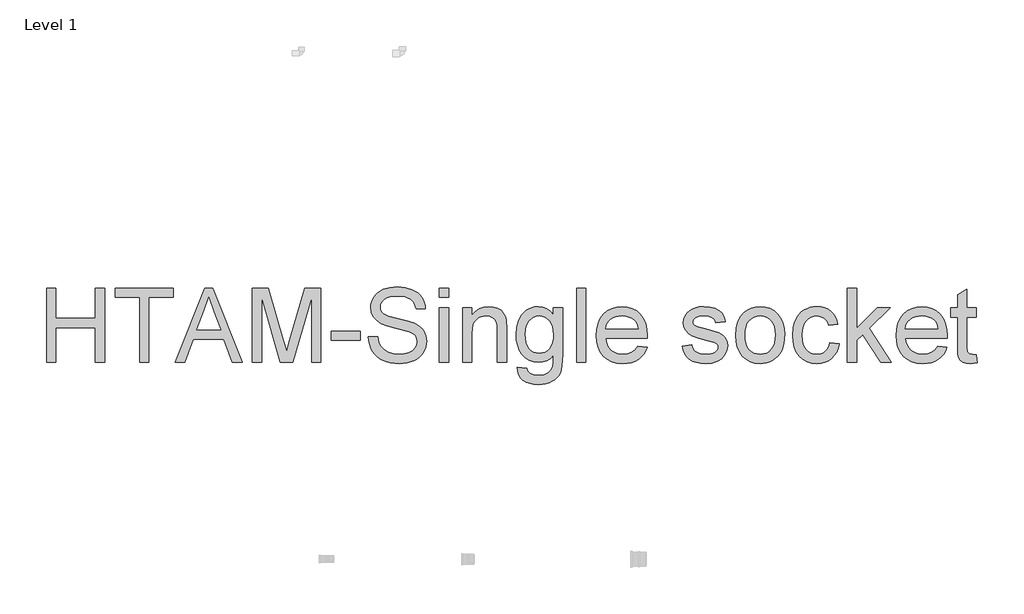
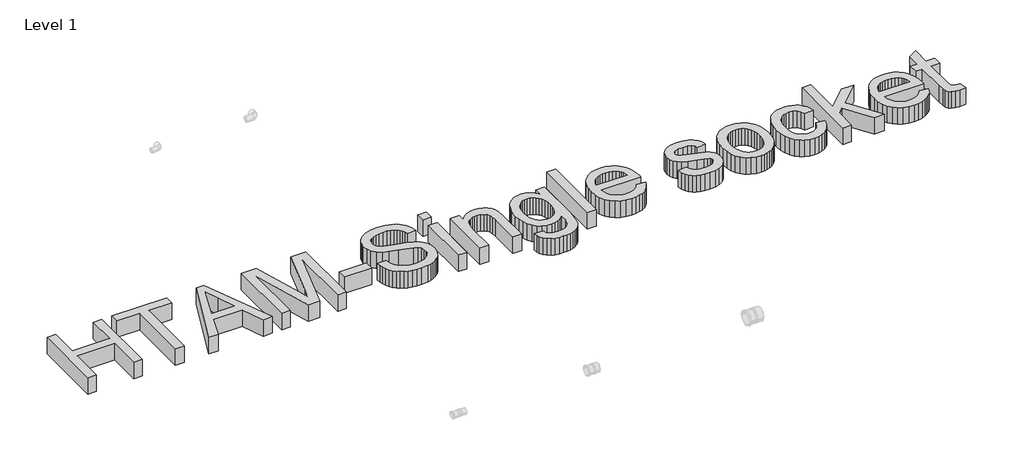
# One storey, part 22 of 29: 1 proxy.
"""IFC4 building model written with IfcOpenShell, lengths in millimetres."""

import ifcopenshell
import ifcopenshell.guid

model = None  # the IFC model being written
_history = None  # IfcOwnerHistory: only IFC2X3 demands one
_inside = {}  # id of a spatial element -> (the spatial element, [elements in it])
_under = {}  # id of a project, library or spatial element -> (it, [spatial elements below it])
_declared = {}  # id of a project -> (the project, [libraries it declares])
_typed = {}  # id of a type object -> (the type object, [elements of that type])
_made_of = {}  # id of a material, layer set ... -> (it, [elements and type objects made of it])


def new_model(schema):
    """Start an empty IFC model of exactly this schema.

    Asked for "IFC4X3", IfcOpenShell would pick the latest addendum, in which some entities
    have other attributes; the version numbers below select the first issue.
    IFC2X3 requires an IfcOwnerHistory on every rooted entity: one is made here for all.
    """
    global model, _history
    if schema == "IFC4X3":
        model = ifcopenshell.file(schema_version=(4, 3, 0, 0))
    else:
        model = ifcopenshell.file(schema=schema)
    _inside.clear()
    _under.clear()
    _declared.clear()
    _typed.clear()
    _made_of.clear()
    _history = None
    if model.schema == "IFC2X3":
        org = make("IfcOrganization", Name="unknown")
        user = make(
            "IfcPersonAndOrganization",
            ThePerson=make("IfcPerson", FamilyName="unknown"),
            TheOrganization=org,
        )
        app = make(
            "IfcApplication",
            ApplicationDeveloper=org,
            Version="unknown",
            ApplicationFullName="unknown",
            ApplicationIdentifier="unknown",
        )
        _history = make(
            "IfcOwnerHistory",
            OwningUser=user,
            OwningApplication=app,
            ChangeAction="ADDED",
            CreationDate=0,
        )
    return model


def make(cls, **values):
    """One entity of the class cls with the attributes given. An attribute that is None is left unset."""
    return model.create_entity(
        cls, **{name: value for name, value in values.items() if value is not None}
    )


def rooted(cls, **values):
    """An entity with a GlobalId (a new one), such as an element, a storey or a relation."""
    return make(cls, GlobalId=ifcopenshell.guid.new(), OwnerHistory=_history, **values)


def si_unit(unit_type, name, prefix=None):
    """IfcSIUnit, for example si_unit("LENGTHUNIT", "METRE", prefix="MILLI")."""
    return make("IfcSIUnit", UnitType=unit_type, Prefix=prefix, Name=name)


def assignment(units):
    """IfcUnitAssignment: the units of a project."""
    return None if units is None else make("IfcUnitAssignment", Units=units)


def point(xyz):
    """IfcCartesianPoint."""
    return None if xyz is None else make("IfcCartesianPoint", Coordinates=xyz)


def direction(xyz):
    """IfcDirection."""
    return None if xyz is None else make("IfcDirection", DirectionRatios=xyz)


def frame(location, z_axis=None, x_axis=None):
    """IfcAxis2Placement3D, a coordinate frame: its origin and axes. An axis left out is left unset."""
    return make(
        "IfcAxis2Placement3D",
        Location=point(location),
        Axis=direction(z_axis),
        RefDirection=direction(x_axis),
    )


def origin():
    """The frame at (0, 0, 0) with its axes left unset."""
    return frame((0.0, 0.0, 0.0))


def origin_with_axes():
    """The frame at (0, 0, 0) with the z axis (0, 0, 1) and the x axis (1, 0, 0) written out."""
    return frame((0.0, 0.0, 0.0), z_axis=(0.0, 0.0, 1.0), x_axis=(1.0, 0.0, 0.0))


def place(relative_to, where):
    """IfcLocalPlacement: puts the frame where relative to a parent placement (None: the world)."""
    return make(
        "IfcLocalPlacement", PlacementRelTo=relative_to, RelativePlacement=where
    )


def context(
    kind, dimensions, precision=None, world=None, true_north=None, identifier=None
):
    """IfcGeometricRepresentationContext, for example the 3D "Model" context."""
    return make(
        "IfcGeometricRepresentationContext",
        ContextIdentifier=identifier,
        ContextType=kind,
        CoordinateSpaceDimension=dimensions,
        Precision=precision,
        WorldCoordinateSystem=world,
        TrueNorth=true_north,
    )


def project(units=None, contexts=None):
    """IfcProject with its units and contexts."""
    return rooted(
        "IfcProject",
        Name="project",
        RepresentationContexts=contexts,
        UnitsInContext=assignment(units),
    )


def spatial(cls, under=None, at=None, **own):
    """A site, building, storey or space (cls), placed at a placement, below another one or the project."""
    s = rooted(cls, ObjectPlacement=at, **own)
    if under is not None:
        _under.setdefault(under.id(), (under, []))[1].append(s)
    return s


def polyline(points):
    """IfcPolyline through the points."""
    return make("IfcPolyline", Points=[point(p) for p in points])


def outline(outer, holes=None, kind="AREA"):
    """IfcArbitraryClosedProfileDef: a profile drawn as a closed curve; with holes, ...WithVoids."""
    if holes is None:
        return make("IfcArbitraryClosedProfileDef", ProfileType=kind, OuterCurve=outer)
    return make(
        "IfcArbitraryProfileDefWithVoids",
        ProfileType=kind,
        OuterCurve=outer,
        InnerCurves=holes,
    )


def extrude(swept, where, along, depth):
    """IfcExtrudedAreaSolid: the profile swept, set in the frame where, extruded along a direction by depth."""
    return make(
        "IfcExtrudedAreaSolid",
        SweptArea=swept,
        Position=where,
        ExtrudedDirection=direction(along),
        Depth=depth,
    )


def shape(context_of_items, identifier, shape_type, items):
    """IfcShapeRepresentation: the items that make up one representation, for example the "Body"."""
    return make(
        "IfcShapeRepresentation",
        ContextOfItems=context_of_items,
        RepresentationIdentifier=identifier,
        RepresentationType=shape_type,
        Items=items,
    )


def made_of(thing, what):
    """Note that an element or type object is made of a material, layer set ...; save() writes the relation."""
    if what is not None:
        _made_of.setdefault(what.id(), (what, []))[1].append(thing)
    return thing


def element(
    cls,
    number,
    at=None,
    inside=None,
    cuts=None,
    type_object=None,
    material=None,
    context=None,
    identifier="Body",
    shape_type=None,
    held_by="IfcProductDefinitionShape",
    body=None,
    shapes=None,
    **own,
):
    """One element of the class cls, such as IfcWall. Its Tag is "e" and its number.

    at: its placement. inside: the storey or other place that contains it. cuts: it is an
    opening in that element (IfcRelVoidsElement). A single representation is given by context,
    identifier, shape_type and body (its items); several are given by shapes. held_by: the class
    of the entity that holds the representations. save() writes the other relations.
    """
    e = rooted(cls, Tag="e%d" % number, ObjectPlacement=at, **own)
    if body is not None:
        shapes = [shape(context, identifier, shape_type, body)]
    if shapes is not None:
        e.Representation = make(held_by, Representations=shapes)
    if inside is not None:
        _inside.setdefault(inside.id(), (inside, []))[1].append(e)
    if cuts is not None:
        rooted(
            "IfcRelVoidsElement", RelatingBuildingElement=cuts, RelatedOpeningElement=e
        )
    if type_object is not None:
        _typed.setdefault(type_object.id(), (type_object, []))[1].append(e)
    return made_of(e, material)


def aggregate(whole, parts):
    """IfcRelAggregates: a whole, such as a stair, and the parts it consists of."""
    return rooted("IfcRelAggregates", RelatingObject=whole, RelatedObjects=parts)


def save(model, path):
    """Write the relations noted so far, then the file.

    IfcRelAggregates (storeys below a building ...), IfcRelContainedInSpatialStructure (elements
    in a storey), IfcRelDefinesByType, IfcRelAssociatesMaterial and IfcRelDeclares: one each for
    every whole, place, type object, material and project.
    """
    for whole, parts in _under.values():
        aggregate(whole, parts)
    for where, things in _inside.values():
        rooted(
            "IfcRelContainedInSpatialStructure",
            RelatedElements=things,
            RelatingStructure=where,
        )
    for kind, things in _typed.values():
        rooted("IfcRelDefinesByType", RelatedObjects=things, RelatingType=kind)
    for what, things in _made_of.values():
        rooted("IfcRelAssociatesMaterial", RelatedObjects=things, RelatingMaterial=what)
    for by, libraries in _declared.values():
        rooted("IfcRelDeclares", RelatingContext=by, RelatedDefinitions=libraries)
    model.write(path)


model = new_model("IFC4")

# Units and contexts
model_context = context("Model", 3, world=origin())
ifc_project = project(units=[si_unit("LENGTHUNIT", "METRE", prefix="MILLI")], contexts=[model_context])

# Site, building, storey
site = spatial("IfcSite", under=ifc_project)
building = spatial("IfcBuilding", under=site)
storey = spatial("IfcBuildingStorey", under=building, Name="Level 1", Elevation=0.0)

# Proxy
placement = place(None, origin())
element("IfcBuildingElementProxy", 1, Name="600mm Arial", ObjectType="600mm Arial", at=placement, inside=storey, context=model_context, shape_type="SweptSolid", body=[
    extrude(outline(polyline([(14476.2676005, 16398.5151452), (14476.2676005, 17001.2530061), (14551.6098331, 17001.2530061), (14551.6098331, 16756.3907501), (14871.8143217, 16756.3907501), (14871.8143217, 17001.2530061), (14947.1565543, 17001.2530061), (14947.1565543, 16398.5151452), (14871.8143217, 16398.5151452), (14871.8143217, 16681.0485175), (14551.6098331, 16681.0485175), (14551.6098331, 16398.5151452), (14476.2676005, 16398.5151452)])), origin_with_axes(), (0.0, 0.0, 1.0), 150.0),
    extrude(outline(polyline([(15229.6899266, 16398.5151452), (15229.6899266, 16925.9107735), (15031.916566, 16925.9107735), (15031.916566, 17001.2530061), (15502.8055198, 17001.2530061), (15502.8055198, 16925.9107735), (15305.0321592, 16925.9107735), (15305.0321592, 16398.5151452), (15229.6899266, 16398.5151452)])), origin_with_axes(), (0.0, 0.0, 1.0), 150.0),
    extrude(outline(polyline([(15517.3736468, 16398.5151452), (15757.9684717, 17001.2530061), (15822.1270916, 17001.2530061), (16062.7219165, 16398.5151452), (15983.1122527, 16398.5151452), (15914.0975904, 16586.8707267), (15665.8508201, 16586.8707267), (15596.9833106, 16398.5151452), (15517.3736468, 16398.5151452)]), holes=[polyline([(15693.5155461, 16662.2129593), (15886.5800172, 16662.2129593), (15832.2806347, 16810.395827), (15790.0477817, 16925.9107735), (15752.5238181, 16823.3452732), (15693.5155461, 16662.2129593)])]), origin_with_axes(), (0.0, 0.0, 1.0), 150.0),
    extrude(outline(polyline([(16143.214497, 16398.5151452), (16143.214497, 17001.2530061), (16272.8561121, 17001.2530061), (16396.1701569, 16576.4228781), (16421.0389798, 16487.6897408), (16447.9679418, 16583.780518), (16569.2218474, 17001.2530061), (16698.8634625, 17001.2530061), (16698.8634625, 16398.5151452), (16623.5212299, 16398.5151452), (16623.5212299, 16925.9107735), (16472.1010007, 16398.5151452), (16369.9769589, 16398.5151452), (16218.5567296, 16925.9107735), (16218.5567296, 16398.5151452), (16143.214497, 16398.5151452)])), origin_with_axes(), (0.0, 0.0, 1.0), 150.0),
    extrude(outline(polyline([(16783.6234742, 16577.4529476), (16783.6234742, 16652.7951803), (17019.0679511, 16652.7951803), (17019.0679511, 16577.4529476), (16783.6234742, 16577.4529476)])), origin_with_axes(), (0.0, 0.0, 1.0), 150.0),
    extrude(outline(polyline([(17084.9924047, 16605.7062849), (17160.3346373, 16605.7062849), (17168.9798642, 16563.8964961), (17184.614849, 16530.2904759), (17209.0054253, 16503.6190312), (17243.9174266, 16482.6129693), (17286.591738, 16468.9829414), (17334.2692446, 16464.4395987), (17376.2445803, 16467.8792954), (17412.9959916, 16478.1983853), (17442.7760391, 16494.5323459), (17463.8372833, 16516.0166545), (17476.3636652, 16540.6831422), (17480.5391259, 16566.5636406), (17477.4121289, 16591.7819514), (17468.0311381, 16613.5789596), (17448.9748507, 16632.1753944), (17416.8219643, 16647.7919851), (17307.1195534, 16676.5603571), (17235.1066528, 16695.5982504), (17189.0294329, 16713.7164387), (17151.5238635, 16739.0635081), (17124.9443894, 16769.7816547), (17109.1070695, 16805.2086909), (17103.8279628, 16844.6824289), (17105.4604392, 16867.1186321), (17110.3578682, 16888.8098743), (17118.52025, 16909.7561554), (17129.9475845, 16929.9574754), (17144.511113, 16948.5906985), (17162.0820768, 16964.8326886), (17182.6604759, 16978.6834457), (17206.2463103, 16990.1429698), (17259.2581058, 17005.5388313), (17317.935284, 17010.6707852), (17381.5052928, 17005.299708), (17437.1290505, 16989.1864766), (17461.4644444, 16977.1843266), (17482.8199943, 16962.6621848), (17501.1956999, 16945.6200514), (17516.5915614, 16926.0579263), (17528.8880171, 16904.5460266), (17537.9655053, 16881.6545695), (17543.8240261, 16857.3835548), (17546.4635794, 16831.7329827), (17471.1213468, 16831.7329827), (17466.0813635, 16855.7740711), (17457.2889838, 16876.6881625), (17444.7442078, 16894.475257), (17428.4470354, 16909.1353545), (17408.093964, 16920.5948786), (17383.381491, 16928.780253), (17354.3096163, 16933.6914777), (17320.87834, 16935.3285526), (17286.3802059, 16933.7098718), (17256.903661, 16928.8538294), (17232.4487054, 16920.7604255), (17213.015339, 16909.4296601), (17198.2080887, 16895.8088292), (17187.6314813, 16880.8452291), (17181.2855169, 16864.5388596), (17179.1701954, 16846.8897209), (17180.6693146, 16831.7053916), (17185.166672, 16817.9374079), (17192.6622676, 16805.5857699), (17203.1561015, 16794.6504776), (17219.6740031, 16784.2945994), (17245.6832602, 16773.8283567), (17326.1758407, 16752.5647774), (17409.2435952, 16732.3680558), (17459.4962758, 16714.7465082), (17502.4464987, 16687.412876), (17519.0517723, 16671.3456299), (17532.4104872, 16653.678097), (17542.6789934, 16634.502248), (17550.0136407, 16613.9100534), (17555.8813585, 16568.476627), (17554.1936999, 16544.9091866), (17549.1307239, 16522.0315251), (17540.6924306, 16499.8436422), (17528.8788201, 16478.3455381), (17513.8968258, 16458.3695458), (17495.9533815, 16440.7479982), (17475.0484871, 16425.4808954), (17451.1821427, 16412.5682374), (17425.0487254, 16402.2997312), (17397.3426127, 16394.9650839), (17337.2123006, 16389.0973661), (17298.6720631, 16390.6792587), (17263.3967782, 16395.4249364), (17231.3864461, 16403.3343993), (17202.6410667, 16414.4076474), (17176.9858961, 16428.6630747), (17154.2461903, 16446.1190754), (17134.4219493, 16466.7756494), (17117.5131731, 16490.6327968), (17103.8923422, 16516.9179653), (17093.9319372, 16544.8586029), (17087.631958, 16574.4547094), (17084.9924047, 16605.7062849)])), origin_with_axes(), (0.0, 0.0, 1.0), 150.0),
    extrude(outline(polyline([(17659.4769283, 16925.9107735), (17659.4769283, 17001.2530061), (17734.819161, 17001.2530061), (17734.819161, 16925.9107735), (17659.4769283, 16925.9107735)])), origin_with_axes(), (0.0, 0.0, 1.0), 150.0),
    extrude(outline(polyline([(17659.4769283, 16398.5151452), (17659.4769283, 16841.1507618), (17734.819161, 16841.1507618), (17734.819161, 16398.5151452), (17659.4769283, 16398.5151452)])), origin_with_axes(), (0.0, 0.0, 1.0), 150.0),
    extrude(outline(polyline([(17847.8325099, 16398.5151452), (17847.8325099, 16841.1507618), (17923.1747425, 16841.1507618), (17923.1747425, 16779.3465866), (17949.3495464, 16810.5061916), (17980.7850629, 16832.7630523), (18017.481292, 16846.1171687), (18059.4382335, 16850.5685409), (18096.5759209, 16846.9816914), (18130.5866114, 16836.2211431), (18158.9503132, 16819.6296651), (18179.1470347, 16798.5500267), (18192.8506391, 16773.0374104), (18201.7349892, 16743.1469983), (18205.7081148, 16670.3063632), (18205.7081148, 16398.5151452), (18130.3658822, 16398.5151452), (18130.3658822, 16660.1528202), (18128.1953784, 16699.1115235), (18121.6838671, 16726.8130377), (18109.6725199, 16746.6602713), (18091.0025087, 16762.0561328), (18067.0717849, 16771.9337644), (18039.2783002, 16775.2263083), (18016.4006386, 16773.3777012), (17995.1508548, 16767.8318801), (17975.5289489, 16758.588845), (17957.5349208, 16745.6485958), (17942.5023428, 16727.5396046), (17931.7647871, 16702.7903434), (17925.3222536, 16671.4008122), (17923.1747425, 16633.3710109), (17923.1747425, 16398.5151452), (17847.8325099, 16398.5151452)])), origin_with_axes(), (0.0, 0.0, 1.0), 150.0),
    extrude(outline(polyline([(18290.4681265, 16360.8440289), (18365.8103591, 16351.4262498), (18374.1244922, 16327.8818021), (18390.2377236, 16311.6949943), (18421.9123634, 16299.1134301), (18463.3726642, 16294.9195754), (18507.59208, 16299.6652531), (18525.4527509, 16305.5973503), (18540.4807304, 16313.9022863), (18563.2894141, 16336.71097), (18577.2689299, 16367.1715992), (18581.3524201, 16399.582003), (18582.4192778, 16455.0218197), (18557.3481199, 16430.3001496), (18529.3706941, 16412.6418138), (18498.4870006, 16402.0468123), (18464.6970394, 16398.5151452), (18423.3884899, 16402.6262265), (18387.0187561, 16414.9594704), (18355.5878381, 16435.5148769), (18329.095736, 16464.2924459), (18308.0758785, 16498.8181712), (18293.0616945, 16536.6180462), (18284.0531842, 16577.6920709), (18281.0503474, 16622.0402455), (18286.4398186, 16682.8695334), (18302.6082323, 16738.8059907), (18314.5919883, 16764.0289), (18328.9853714, 16786.2075858), (18345.7883815, 16805.3420481), (18365.0010187, 16821.4322868), (18386.3151818, 16834.179398), (18409.4227696, 16843.2844774), (18434.3237822, 16848.747525), (18461.0182194, 16850.5685409), (18496.2521175, 16846.4482625), (18528.23026, 16834.0874275), (18556.9526467, 16813.4860358), (18582.4192778, 16784.6440873), (18582.4192778, 16841.1507618), (18657.7615105, 16841.1507618), (18657.7615105, 16458.9949452), (18652.6111625, 16370.7584487), (18646.1732276, 16337.9387762), (18637.1601187, 16312.6514875), (18625.3557052, 16292.2570294), (18610.5438564, 16274.1158485), (18592.7245722, 16258.2279449), (18571.8978528, 16244.5933184), (18548.2752302, 16233.6488291), (18522.0682365, 16225.8313367), (18493.2768719, 16221.1408412), (18461.9011362, 16219.5773427), (18424.9887765, 16221.7800362), (18391.801222, 16228.3881165), (18362.3384728, 16239.4015838), (18336.6005287, 16254.8204379), (18315.8105974, 16274.663073), (18301.1918866, 16298.9478832), (18292.7443963, 16327.6748685), (18290.4681265, 16360.8440289)]), holes=[polyline([(18356.39258, 16627.1905934), (18358.4021354, 16589.9379429), (18364.4308016, 16558.0839606), (18374.4785786, 16531.6286466), (18388.5454664, 16510.5720009), (18405.6473806, 16494.5093533), (18424.800237, 16483.0360336), (18446.0040355, 16476.1520417), (18469.2587761, 16473.8573778), (18492.2835905, 16476.1382462), (18513.3862215, 16482.9808513), (18532.566669, 16494.3851931), (18549.8249331, 16510.3512717), (18564.0849589, 16531.2009838), (18574.2706917, 16557.2562261), (18580.3821313, 16588.5169987), (18582.4192778, 16624.9833014), (18580.3223505, 16659.9274924), (18574.0315684, 16690.3007497), (18563.5469315, 16716.1030731), (18548.8684399, 16737.3344627), (18531.2376953, 16753.9121452), (18511.8962994, 16765.7533469), (18490.8442522, 16772.8580679), (18468.0815537, 16775.2263083), (18445.7005329, 16772.8948561), (18425.0577544, 16765.9004997), (18406.1532184, 16754.243239), (18388.9869248, 16737.9230739), (18374.7268989, 16717.013581), (18364.5411662, 16691.5883366), (18358.4297266, 16661.6473408), (18356.39258, 16627.1905934)])]), origin_with_axes(), (0.0, 0.0, 1.0), 150.0),
    extrude(outline(polyline([(18770.7748594, 16398.5151452), (18770.7748594, 17001.2530061), (18846.117092, 17001.2530061), (18846.117092, 16398.5151452), (18770.7748594, 16398.5151452)])), origin_with_axes(), (0.0, 0.0, 1.0), 150.0),
    extrude(outline(polyline([(19269.0342336, 16530.3640523), (19342.9049383, 16520.9462732), (19331.5787713, 16491.3593637), (19316.2886759, 16465.2857273), (19297.034652, 16442.725364), (19273.8166996, 16423.6782737), (19246.873942, 16408.5491266), (19216.4455024, 16397.742593), (19182.531381, 16391.2586728), (19145.1315777, 16389.0973661), (19098.3829731, 16392.8267698), (19056.7295342, 16404.014981), (19020.171261, 16422.6619997), (18988.7081533, 16448.7678257), (18963.4070691, 16481.6058923), (18945.3348661, 16520.4496325), (18934.4915443, 16565.2990462), (18930.8771037, 16616.1541335), (18934.5283325, 16668.7336677), (18945.4820189, 16715.077602), (18963.7381629, 16755.1859366), (18989.2967645, 16789.0586713), (19020.6770987, 16815.9692392), (19056.3984404, 16835.1910735), (19096.4607897, 16846.724174), (19140.8641465, 16850.5685409), (19183.8373621, 16846.7333711), (19222.6994964, 16835.2278617), (19257.4505493, 16816.0520127), (19288.090521, 16789.2058241), (19313.1018981, 16755.4066658), (19330.9671675, 16715.3719076), (19341.6863292, 16669.1015497), (19345.259383, 16616.5955919), (19344.8179247, 16596.2885058), (19006.2193363, 16596.2885058), (19010.5833365, 16566.2233497), (19019.260753, 16539.8921959), (19032.251586, 16517.2950444), (19049.5558353, 16498.4318951), (19070.2170079, 16483.5602654), (19093.2786104, 16472.9376728), (19118.740643, 16466.5641172), (19146.6031056, 16464.4395987), (19186.7022431, 16468.3759361), (19220.4738103, 16480.1849481), (19247.9178071, 16500.6023989), (19269.0342336, 16530.3640523)]), holes=[polyline([(19006.2193363, 16671.6307384), (19269.9171504, 16671.6307384), (19259.7268192, 16711.4355703), (19250.9620306, 16727.0889492), (19239.7508268, 16739.9096367), (19219.2046174, 16755.3606805), (19195.8257166, 16766.3971404), (19169.6141244, 16773.0190163), (19140.5698409, 16775.2263083), (19114.0777388, 16773.4650732), (19089.7837315, 16768.181368), (19067.6878192, 16759.3751928), (19047.7900017, 16747.0465474), (19031.0927577, 16731.765649), (19018.5985654, 16714.1027148), (19010.307425, 16694.0577445), (19006.2193363, 16671.6307384)])]), origin_with_axes(), (0.0, 0.0, 1.0), 150.0),
    extrude(outline(polyline([(19627.7927553, 16530.3640523), (19703.134988, 16539.7818313), (19707.6875276, 16522.6017422), (19715.0175764, 16507.5553686), (19725.1251342, 16494.6427105), (19738.0102011, 16483.8637681), (19753.7095652, 16475.365694), (19772.2600148, 16469.2956411), (19817.9141704, 16464.4395987), (19863.0165031, 16468.8909709), (19880.5460801, 16474.455186), (19894.727931, 16482.2450873), (19913.4899128, 16501.5956802), (19918.1804082, 16512.429805), (19919.7439067, 16524.0364819), (19918.1712112, 16534.2084191), (19913.4531246, 16543.2399221), (19894.5807782, 16557.8816255), (19866.3642292, 16567.4465574), (19817.0312537, 16579.365934), (19748.2741088, 16599.2499559), (19703.5764463, 16616.2277099), (19674.8632566, 16634.7505684), (19654.0595298, 16659.2699034), (19641.4227833, 16688.2222164), (19637.2105344, 16720.044009), (19640.5950488, 16749.2354453), (19650.7485918, 16776.1828014), (19666.7514586, 16799.8192196), (19687.6839442, 16819.0778421), (19708.487671, 16831.1995538), (19735.5821799, 16841.371491), (19766.9073318, 16848.2692784), (19800.4029875, 16850.5685409), (19849.4416574, 16846.8713268), (19892.0791807, 16835.7796847), (19926.3657826, 16818.3788663), (19950.3516887, 16795.7541236), (19966.2441909, 16766.2315935), (19976.2505812, 16728.1374129), (19900.9083486, 16718.7196338), (19891.398599, 16742.4296284), (19872.5814349, 16760.2902992), (19844.2729154, 16771.492306), (19806.2890994, 16775.2263083), (19763.0261768, 16771.6578529), (19734.1842283, 16760.9524868), (19717.9606324, 16745.501443), (19712.552767, 16727.6959545), (19714.7968472, 16716.1076716), (19721.5290877, 16705.7701876), (19733.0437942, 16696.5363495), (19749.6352721, 16689.1419214), (19814.5296561, 16673.1022664), (19925.1149838, 16637.6384421), (19954.3248143, 16620.6790821), (19976.4713104, 16597.4657282), (19990.4324321, 16567.924804), (19995.0861393, 16531.982733), (19989.6230917, 16494.8266515), (19973.2339488, 16459.877862), (19946.5441101, 16429.8770853), (19910.1789748, 16407.5650423), (19866.2538646, 16393.7142852), (19816.8841009, 16389.0973661), (19776.3343079, 16391.3230522), (19740.9164689, 16398.0001104), (19710.6305836, 16409.1285408), (19685.4766522, 16424.7083432), (19664.9304428, 16444.6659415), (19648.4677235, 16468.9277591), (19636.0884943, 16497.493796), (19627.7927553, 16530.3640523)])), origin_with_axes(), (0.0, 0.0, 1.0), 150.0),
    extrude(outline(polyline([(20061.0105929, 16619.8329535), (20065.084886, 16677.1581654), (20077.3077652, 16726.5555203), (20097.6792307, 16768.0250182), (20126.1992824, 16801.5666591), (20154.9124721, 16823.0049824), (20186.605506, 16838.3180704), (20221.2783841, 16847.5059233), (20258.9311063, 16850.5685409), (20300.4971732, 16846.8391371), (20338.0809175, 16835.650926), (20371.6823393, 16817.0039073), (20401.3014384, 16790.8980812), (20425.475884, 16758.2163645), (20442.7433452, 16719.8416739), (20453.1038218, 16675.7740094), (20456.5573141, 16626.013371), (20455.0306038, 16585.6843073), (20450.450473, 16549.8985862), (20442.8169216, 16518.6562078), (20432.1299496, 16491.957172), (20418.5229143, 16468.8955694), (20402.1291729, 16448.5654906), (20382.9487254, 16430.9669357), (20360.9815717, 16416.0999046), (20337.0830376, 16404.286294), (20312.1084487, 16395.8480007), (20286.0578049, 16390.7850248), (20258.9311063, 16389.0973661), (20216.758034, 16392.8129743), (20178.8248018, 16403.9597987), (20145.1314096, 16422.5378395), (20115.6778573, 16448.5470965), (20091.7609291, 16481.5461115), (20074.677409, 16521.093426), (20064.4272969, 16567.18904), (20061.0105929, 16619.8329535)]), holes=[polyline([(20136.3528255, 16619.9801063), (20138.5325263, 16583.4356286), (20145.0716288, 16551.7931785), (20155.9701329, 16525.052756), (20171.2280386, 16503.214361), (20189.7876853, 16486.2504025), (20210.5914121, 16474.1332893), (20233.6392191, 16466.8630214), (20258.9311063, 16464.4395987), (20284.0942347, 16466.8768169), (20307.0500712, 16474.1884716), (20327.7986158, 16486.3745627), (20346.3398683, 16503.4350902), (20361.5977741, 16525.4896158), (20372.4962782, 16552.6577012), (20379.0353806, 16584.9393462), (20381.2150815, 16622.3345511), (20379.0215851, 16657.7202005), (20372.4410959, 16688.5349161), (20361.4736139, 16714.7786979), (20346.1191391, 16736.451546), (20327.5089087, 16753.4155045), (20306.7741597, 16765.5326177), (20283.9148923, 16772.8028856), (20258.9311063, 16775.2263083), (20233.6392191, 16772.8120827), (20210.5914121, 16765.5694059), (20189.7876853, 16753.4982779), (20171.2280386, 16736.5986988), (20155.9701329, 16714.8246832), (20145.0716288, 16688.1302459), (20138.5325263, 16656.5153869), (20136.3528255, 16619.9801063)])]), origin_with_axes(), (0.0, 0.0, 1.0), 150.0),
    extrude(outline(polyline([(20823.8506981, 16558.6173895), (20899.1929307, 16549.1996104), (20890.9983592, 16513.6484141), (20878.1868687, 16482.189905), (20860.7584592, 16454.8240831), (20838.7131307, 16431.5509484), (20812.9797851, 16412.9775061), (20784.4873246, 16399.7107617), (20753.2357491, 16391.750715), (20719.2250586, 16389.0973661), (20676.969213, 16392.7991787), (20639.081966, 16403.9046164), (20605.5633177, 16422.4136793), (20576.4132681, 16448.3263673), (20552.8182366, 16481.1552369), (20535.9646427, 16520.4128443), (20525.8524864, 16566.0991896), (20522.4817676, 16618.2142727), (20528.2391208, 16685.2607663), (20535.4358124, 16715.4316885), (20545.5111805, 16743.3677275), (20558.5342031, 16768.5078633), (20574.5738581, 16790.291076), (20593.6301455, 16808.7173654), (20615.7030652, 16823.7867316), (20639.7947373, 16835.5037732), (20664.907282, 16843.8730886), (20691.0406993, 16848.8946778), (20718.194989, 16850.5685409), (20751.6216668, 16848.2692784), (20781.8569683, 16841.371491), (20808.9008935, 16829.8751786), (20832.7534423, 16813.7803413), (20853.0099447, 16793.4548611), (20869.2657304, 16769.2666199), (20881.5207993, 16741.2156178), (20889.7751516, 16709.3018547), (20814.432919, 16699.8840756), (20800.7661029, 16732.7543319), (20779.4841294, 16756.3171737), (20751.7642211, 16770.4990246), (20718.7836002, 16775.2263083), (20693.1836119, 16772.8994546), (20670.0944182, 16765.9188938), (20649.5160191, 16754.2846257), (20631.4484146, 16737.9966503), (20616.7377333, 16716.6778887), (20606.2301038, 16689.9512618), (20599.9255261, 16657.8167695), (20597.8240002, 16620.2744119), (20599.8795409, 16582.1664357), (20606.0461628, 16549.6594629), (20616.3238661, 16522.7534935), (20630.7126506, 16501.4485274), (20648.4215701, 16485.2571211), (20668.6596784, 16473.6918309), (20691.4269754, 16466.7526568), (20716.7234611, 16464.4395987), (20755.7373467, 16470.2153461), (20772.6093347, 16477.4350302), (20787.7246861, 16487.542588), (20800.6603368, 16500.6483841), (20810.9932223, 16516.862783), (20818.7233428, 16536.1857848), (20823.8506981, 16558.6173895)])), origin_with_axes(), (0.0, 0.0, 1.0), 150.0),
    extrude(outline(polyline([(20965.1173842, 16398.5151452), (20965.1173842, 17001.2530061), (21040.4596168, 17001.2530061), (21040.4596168, 16677.3696975), (21209.391029, 16841.1507618), (21313.57521, 16841.1507618), (21142.5836587, 16675.3095584), (21322.9929891, 16398.5151452), (21234.9956159, 16398.5151452), (21088.5785818, 16622.9231622), (21040.4596168, 16576.2757253), (21040.4596168, 16398.5151452), (20965.1173842, 16398.5151452)])), origin_with_axes(), (0.0, 0.0, 1.0), 150.0),
    extrude(outline(polyline([(21698.8212354, 16530.3640523), (21772.69194, 16520.9462732), (21761.3657731, 16491.3593637), (21746.0756777, 16465.2857273), (21726.8216537, 16442.725364), (21703.6037013, 16423.6782737), (21676.6609437, 16408.5491266), (21646.2325042, 16397.742593), (21612.3183827, 16391.2586728), (21574.9185794, 16389.0973661), (21528.1699749, 16392.8267698), (21486.516536, 16404.014981), (21449.9582627, 16422.6619997), (21418.4951551, 16448.7678257), (21393.1940708, 16481.6058923), (21375.1218678, 16520.4496325), (21364.278546, 16565.2990462), (21360.6641054, 16616.1541335), (21364.3153342, 16668.7336677), (21375.2690206, 16715.077602), (21393.5251646, 16755.1859366), (21419.0837663, 16789.0586713), (21450.4641004, 16815.9692392), (21486.1854422, 16835.1910735), (21526.2477915, 16846.724174), (21570.6511483, 16850.5685409), (21613.6243638, 16846.7333711), (21652.4864981, 16835.2278617), (21687.2375511, 16816.0520127), (21717.8775227, 16789.2058241), (21742.8888999, 16755.4066658), (21760.7541693, 16715.3719076), (21771.4733309, 16669.1015497), (21775.0463848, 16616.5955919), (21774.6049264, 16596.2885058), (21436.006338, 16596.2885058), (21440.3703382, 16566.2233497), (21449.0477548, 16539.8921959), (21462.0385877, 16517.2950444), (21479.3428371, 16498.4318951), (21500.0040096, 16483.5602654), (21523.0656122, 16472.9376728), (21548.5276448, 16466.5641172), (21576.3901074, 16464.4395987), (21616.4892449, 16468.3759361), (21650.260812, 16480.1849481), (21677.7048089, 16500.6023989), (21698.8212354, 16530.3640523)]), holes=[polyline([(21436.006338, 16671.6307384), (21699.7041522, 16671.6307384), (21689.5138209, 16711.4355703), (21680.7490324, 16727.0889492), (21669.5378286, 16739.9096367), (21648.9916191, 16755.3606805), (21625.6127183, 16766.3971404), (21599.4011262, 16773.0190163), (21570.3568427, 16775.2263083), (21543.8647405, 16773.4650732), (21519.5707332, 16768.181368), (21497.4748209, 16759.3751928), (21477.5770035, 16747.0465474), (21460.8797594, 16731.765649), (21448.3855672, 16714.1027148), (21440.0944267, 16694.0577445), (21436.006338, 16671.6307384)])]), origin_with_axes(), (0.0, 0.0, 1.0), 150.0),
    extrude(outline(polyline([(22010.4908617, 16461.34939), (22019.9086408, 16396.3078532), (21963.5491191, 16389.0973661), (21927.386319, 16392.2243631), (21900.4205687, 16401.605354), (21881.3642814, 16416.0631164), (21868.92987, 16434.4204279), (21862.0872648, 16465.9479149), (21859.8063965, 16519.9162036), (21859.8063965, 16765.8085292), (21803.299722, 16765.8085292), (21803.299722, 16841.1507618), (21859.8063965, 16841.1507618), (21859.8063965, 16948.7194572), (21935.1486291, 16993.0124494), (21935.1486291, 16841.1507618), (22010.4908617, 16841.1507618), (22010.4908617, 16765.8085292), (21935.1486291, 16765.8085292), (21935.1486291, 16522.1234956), (21939.1217546, 16483.2751569), (21951.9976245, 16469.5163703), (21962.8685374, 16465.7087916), (21977.6757877, 16464.4395987), (22010.4908617, 16461.34939)])), origin_with_axes(), (0.0, 0.0, 1.0), 150.0),
])

save(model, "model.ifc")
